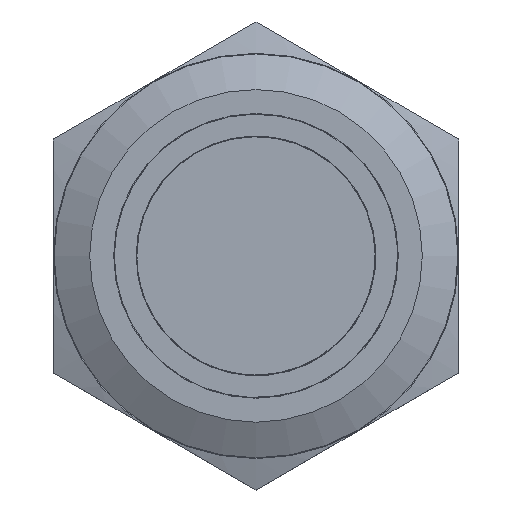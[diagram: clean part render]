
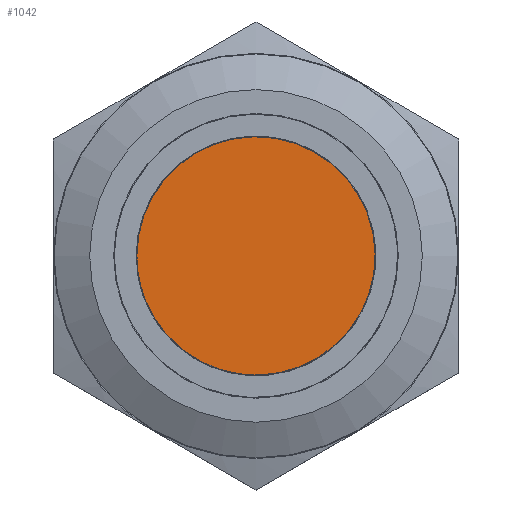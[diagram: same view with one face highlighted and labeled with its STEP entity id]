
A CAD part, top view. The second image highlights one B-rep face of the part: STEP entity #1042.
In plain terms, the highlighted planar face has unit normal (0, 0, 1).
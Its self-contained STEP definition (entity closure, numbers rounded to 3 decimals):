
#761=FACE_OUTER_BOUND('',#1791,.T.);
#1042=ADVANCED_FACE('',(#761),#1227,.F.);
#1227=PLANE('',#5050);
#1341=CIRCLE('',#5048,8.2);
#1791=EDGE_LOOP('',(#2721));
#2721=ORIENTED_EDGE('',*,*,#3855,.T.);
#3321=VERTEX_POINT('',#9001);
#3855=EDGE_CURVE('',#3321,#3321,#1341,.T.);
#5048=AXIS2_PLACEMENT_3D('',#9000,#5913,#5914);
#5050=AXIS2_PLACEMENT_3D('',#9003,#5917,#5918);
#5913=DIRECTION('',(0.,0.,1.));
#5914=DIRECTION('',(-0.924,-0.383,0.));
#5917=DIRECTION('',(0.,0.,-1.));
#5918=DIRECTION('',(-0.924,-0.383,0.));
#9000=CARTESIAN_POINT('',(0.,0.,11.3));
#9001=CARTESIAN_POINT('',(-7.575,-3.141,11.3));
#9003=CARTESIAN_POINT('',(0.,0.,11.3));
